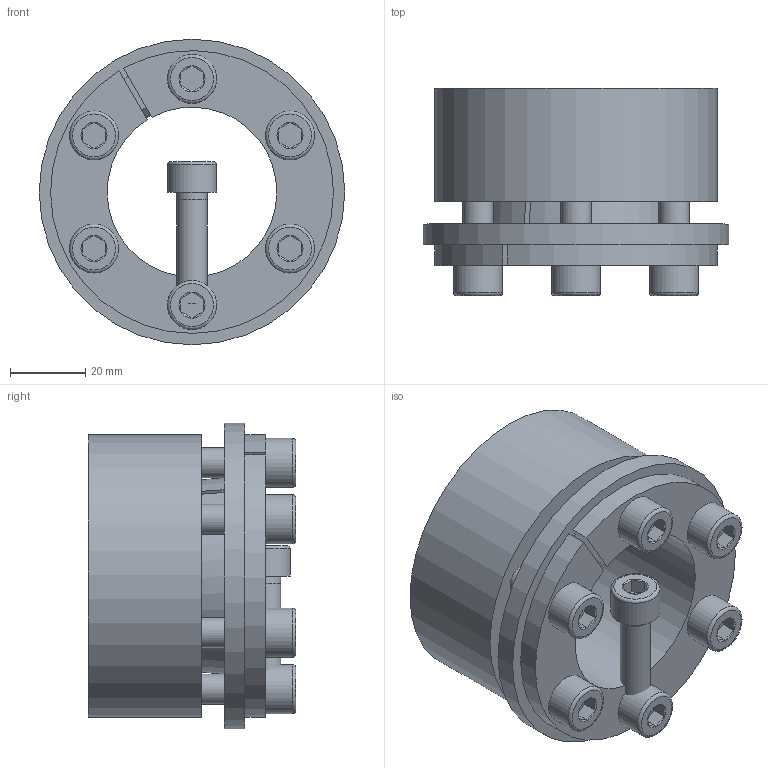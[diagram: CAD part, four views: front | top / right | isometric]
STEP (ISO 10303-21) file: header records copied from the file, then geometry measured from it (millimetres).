
FILE_DESCRIPTION( ( 'Unknown' ), '1' );
FILE_NAME( 'C:/Dokumente und Einstellungen/Sven/Desktop/homepage/cad - homepage/KBS71/KBS 71 - 45 x 75.stp', 'Unknown', ( 'Unknown' ), ( 'Unknown' ), 'XStep 1.0', 'Unknown', ' ' );
FILE_SCHEMA( ( 'automotive_design' ) );
Length unit declared in the file: millimetre
Products named in the file (3): Assem1; KBS 71 - 45 x 75; ISO EN DIN 4762 M8x30
Bounding box: 81 x 55 x 81 mm (x, y, z)
Volume: 235293.6 mm3; surface area: 80732 mm2
Topology: 9 solids, 9 shells, 247 faces, 537 edges, 322 vertices
Faces by surface type: plane 116, cylinder 60, cone 57, torus 14
Full cylindrical faces by diameter (mm): 7 x7, 8 x38, 13 x7, 81 x2
Entity records: 2126 total; most frequent: CARTESIAN_POINT 341, DIRECTION 320, ORIENTED_EDGE 252, AXIS2_PLACEMENT_3D 135, EDGE_CURVE 126, EDGE_LOOP 108, VERTEX_POINT 88, FACE_OUTER_BOUND 80
